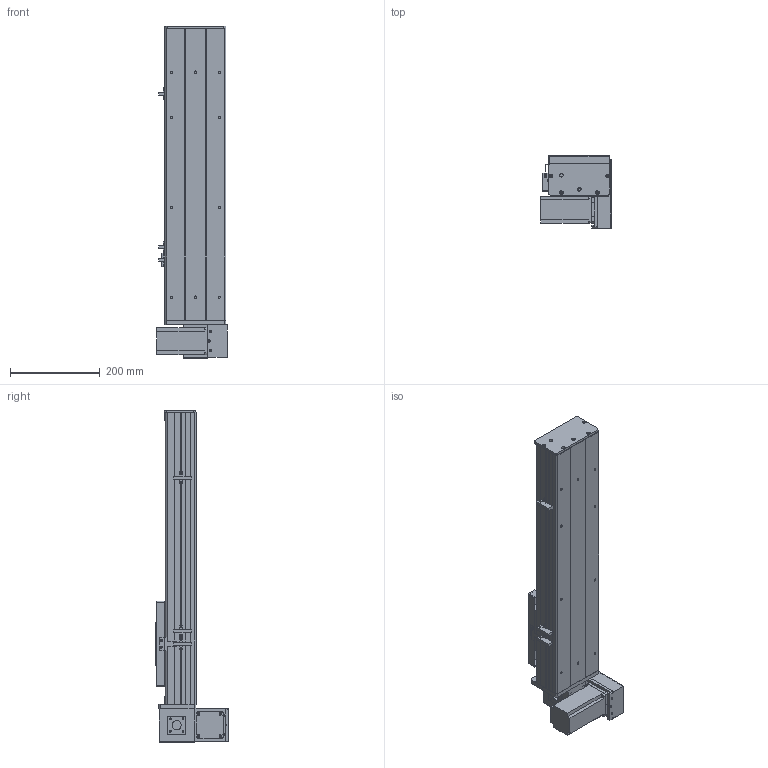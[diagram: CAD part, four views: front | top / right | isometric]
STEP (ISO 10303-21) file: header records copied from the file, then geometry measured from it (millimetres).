
FILE_DESCRIPTION (( 'STEP AP203' ), '1' );
FILE_NAME ('Y135CB-D90-S350-BM-P400W.STEP', '2020-02-18T09:14:18', ( '微软用户' ), ( '微软中国' ), 'SwSTEP 2.0', 'SolidWorks 2017', '' );
FILE_SCHEMA (( 'CONFIG_CONTROL_DESIGN' ));
Length unit declared in the file: millimetre
Products named in the file (18): 00B-俋欶BM--; 5CB --掛极耜裔啣-; Y10B-耜蚾蟀諉啣----; C-詩湍揤踡え-陔; Y135CB-耜裔; Y135CB-D90-S350-BM-P400W; 135CB--詩湍-CE; 135CB---遴掛极.-; Y100-135俋离換覜ん--; 35CB---喘謫眊楊擘啣; Y135C-陔俋离換覜結え-; 0B-埴倛裔啣; 5C--俋欶; 0B-源倛裔啣; C-雄赽釱--; 0B-萇儂楊擘啣; Y10B--々湍喘謫眊--666; san松下电机400不带刹车----
Assembly tree (21 placements, depth 2):
  Y135CB-D90-S350-BM-P400W
    Y135CB-耜裔
    135CB---遴掛极.-
    35CB---喘謫眊楊擘啣
    0B-埴倛裔啣
    0B-源倛裔啣
    0B-萇儂楊擘啣
    san松下电机400不带刹车----
    5CB --掛极耜裔啣-  x2
    C-詩湍揤踡え-陔  x2
    135CB--詩湍-CE
    Y100-135俋离換覜ん--  x3
    Y135C-陔俋离換覜結え-
    5C--俋欶
    C-雄赽釱--
    Y10B--々湍喘謫眊--666
    00B-俋欶BM--
    Y10B-耜蚾蟀諉啣----
Bounding box: 157 x 163.3 x 738 mm (x, y, z)
Volume: 2698403.4 mm3; surface area: 1038606.4 mm2
Topology: 21 solids, 21 shells, 933 faces, 2473 edges, 1638 vertices
Faces by surface type: cylinder 461, plane 456, cone 16
Entity records: 28743 total; most frequent: DIRECTION 4773, CARTESIAN_POINT 4680, ORIENTED_EDGE 4422, EDGE_CURVE 2211, AXIS2_PLACEMENT_3D 1735, VERTEX_POINT 1466, LINE 1303, VECTOR 1303
